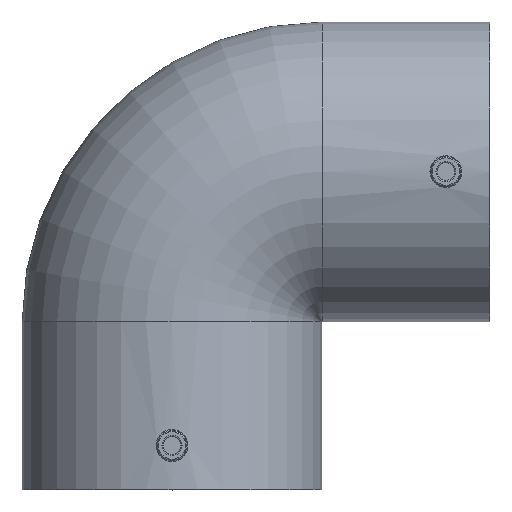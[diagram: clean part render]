
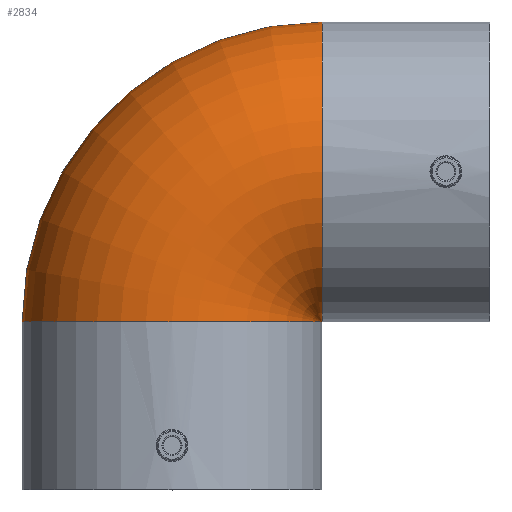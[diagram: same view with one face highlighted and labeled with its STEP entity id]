
A CAD part, top view. The second image highlights one B-rep face of the part: STEP entity #2834.
In plain terms, the highlighted toroidal (fillet/blend) face has major radius 67.1 mm and minor radius 67 mm.
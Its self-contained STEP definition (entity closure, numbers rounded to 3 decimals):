
#2463 = EDGE_LOOP ( 'NONE', ( #2542, #2543, #2544, #2545 ) ) ;
#2542 = ORIENTED_EDGE ( 'NONE', *, *, #7164, .F. ) ;
#2543 = ORIENTED_EDGE ( 'NONE', *, *, #7163, .T. ) ;
#2544 = ORIENTED_EDGE ( 'NONE', *, *, #7148, .T. ) ;
#2545 = ORIENTED_EDGE ( 'NONE', *, *, #7149, .F. ) ;
#2617 = VERTEX_POINT ( 'NONE', #4017 ) ;
#2618 = VERTEX_POINT ( 'NONE', #4018 ) ;
#2621 = VERTEX_POINT ( 'NONE', #4021 ) ;
#2628 = VERTEX_POINT ( 'NONE', #4028 ) ;
#2834 = ADVANCED_FACE ( 'NONE', ( #4856 ), #4912, .T. ) ;
#4017 = CARTESIAN_POINT ( 'NONE',  ( 10.785, -32.618, -68.747 ) ) ;
#4018 = CARTESIAN_POINT ( 'NONE',  ( -123.215, -32.618, -68.747 ) ) ;
#4021 = CARTESIAN_POINT ( 'NONE',  ( 10.885, -32.518, -68.747 ) ) ;
#4028 = CARTESIAN_POINT ( 'NONE',  ( 10.885, 101.482, -68.747 ) ) ;
#4851 = DIRECTION ( 'NONE',  ( 0., 0., 1. ) ) ;
#4856 = FACE_OUTER_BOUND ( 'NONE', #2463, .T. ) ;
#4857 = CARTESIAN_POINT ( 'NONE',  ( 10.885, -32.618, -68.747 ) ) ;
#4860 = DIRECTION ( 'NONE',  ( 1., 0., 0. ) ) ;
#4907 = AXIS2_PLACEMENT_3D ( 'NONE', #4857, #4851, #4860 ) ;
#4912 = TOROIDAL_SURFACE ( 'NONE', #4907, 67.1, 67. ) ;
#5741 = CIRCLE ( 'NONE', #5753, 67. ) ;
#5750 = CIRCLE ( 'NONE', #5755, 0.1 ) ;
#5753 = AXIS2_PLACEMENT_3D ( 'NONE', #6593, #6594, #6595 ) ;
#5755 = AXIS2_PLACEMENT_3D ( 'NONE', #6597, #6598, #6599 ) ;
#6593 = CARTESIAN_POINT ( 'NONE',  ( -56.215, -32.618, -68.747 ) ) ;
#6594 = DIRECTION ( 'NONE',  ( 0., 1., 0. ) ) ;
#6595 = DIRECTION ( 'NONE',  ( 0., 0., -1. ) ) ;
#6597 = CARTESIAN_POINT ( 'NONE',  ( 10.885, -32.618, -68.747 ) ) ;
#6598 = DIRECTION ( 'NONE',  ( 0., 0., 1. ) ) ;
#6599 = DIRECTION ( 'NONE',  ( 1., 0., 0. ) ) ;
#6637 = CARTESIAN_POINT ( 'NONE',  ( 10.885, -32.618, -68.747 ) ) ;
#6638 = DIRECTION ( 'NONE',  ( 0., 0., 1. ) ) ;
#6639 = DIRECTION ( 'NONE',  ( 1., 0., 0. ) ) ;
#6640 = CARTESIAN_POINT ( 'NONE',  ( 10.885, 34.482, -68.747 ) ) ;
#6641 = DIRECTION ( 'NONE',  ( 1., 0., 0. ) ) ;
#6642 = DIRECTION ( 'NONE',  ( 0., 0., -1. ) ) ;
#6919 = CIRCLE ( 'NONE', #6923, 134.1 ) ;
#6922 = CIRCLE ( 'NONE', #6925, 67. ) ;
#6923 = AXIS2_PLACEMENT_3D ( 'NONE', #6637, #6638, #6639 ) ;
#6925 = AXIS2_PLACEMENT_3D ( 'NONE', #6640, #6641, #6642 ) ;
#7148 = EDGE_CURVE ( 'NONE', #2618, #2617, #5741, .T. ) ;
#7149 = EDGE_CURVE ( 'NONE', #2621, #2617, #5750, .T. ) ;
#7163 = EDGE_CURVE ( 'NONE', #2628, #2618, #6919, .T. ) ;
#7164 = EDGE_CURVE ( 'NONE', #2628, #2621, #6922, .T. ) ;
